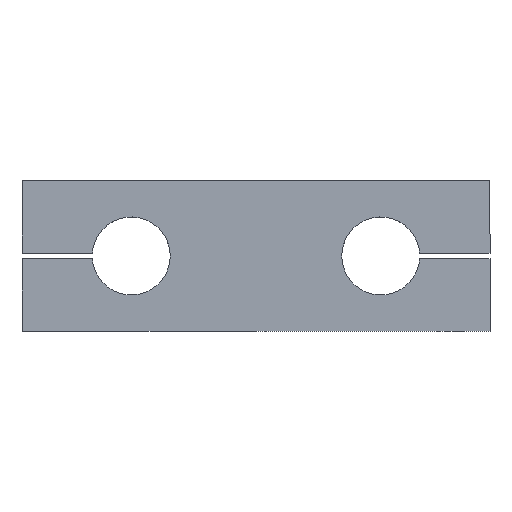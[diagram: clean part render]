
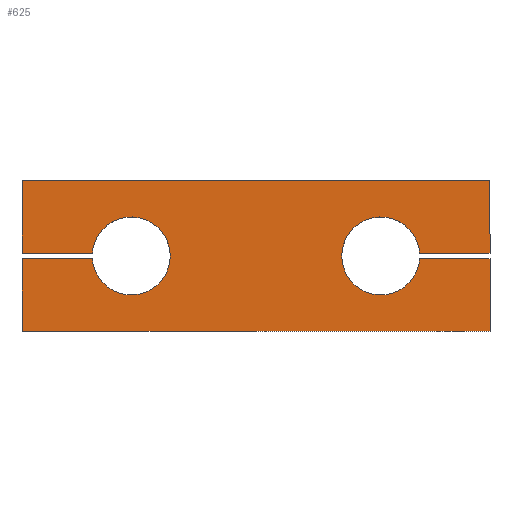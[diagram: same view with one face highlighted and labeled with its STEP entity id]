
A CAD part, top view. The second image highlights one B-rep face of the part: STEP entity #625.
In plain terms, the highlighted planar face has unit normal (0, 0, 1).
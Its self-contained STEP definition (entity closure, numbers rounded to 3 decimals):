
#10 = DIRECTION ( 'NONE',  ( 1., 0., 0. ) ) ;
#28 = ORIENTED_EDGE ( 'NONE', *, *, #374, .F. ) ;
#42 = EDGE_CURVE ( 'NONE', #711, #845, #1039, .T. ) ;
#45 = EDGE_CURVE ( 'NONE', #368, #284, #950, .T. ) ;
#63 = ORIENTED_EDGE ( 'NONE', *, *, #434, .F. ) ;
#88 = CARTESIAN_POINT ( 'NONE',  ( -62.961, -1.075, 12.5 ) ) ;
#93 = CARTESIAN_POINT ( 'NONE',  ( 0., 0., 12.5 ) ) ;
#105 = PLANE ( 'NONE',  #1223 ) ;
#110 = EDGE_CURVE ( 'NONE', #677, #499, #944, .T. ) ;
#168 = ORIENTED_EDGE ( 'NONE', *, *, #42, .T. ) ;
#180 = CARTESIAN_POINT ( 'NONE',  ( -90., 29., 12.5 ) ) ;
#202 = CARTESIAN_POINT ( 'NONE',  ( 90., -1.075, 12.5 ) ) ;
#205 = ORIENTED_EDGE ( 'NONE', *, *, #45, .T. ) ;
#218 = LINE ( 'NONE', #1004, #932 ) ;
#232 = DIRECTION ( 'NONE',  ( 0., 1., 0. ) ) ;
#247 = DIRECTION ( 'NONE',  ( 0., 0., 1. ) ) ;
#248 = EDGE_CURVE ( 'NONE', #1167, #251, #931, .T. ) ;
#251 = VERTEX_POINT ( 'NONE', #774 ) ;
#257 = CIRCLE ( 'NONE', #610, 15. ) ;
#259 = CARTESIAN_POINT ( 'NONE',  ( -90., 29., 12.5 ) ) ;
#264 = CARTESIAN_POINT ( 'NONE',  ( -90., 1.075, 12.5 ) ) ;
#273 = VECTOR ( 'NONE', #689, 1000. ) ;
#282 = CARTESIAN_POINT ( 'NONE',  ( -48., 0., 12.5 ) ) ;
#284 = VERTEX_POINT ( 'NONE', #673 ) ;
#286 = CARTESIAN_POINT ( 'NONE',  ( -90., -29., 12.5 ) ) ;
#314 = VECTOR ( 'NONE', #530, 1000. ) ;
#341 = DIRECTION ( 'NONE',  ( 1., 0., 0. ) ) ;
#344 = LINE ( 'NONE', #259, #496 ) ;
#356 = CIRCLE ( 'NONE', #1109, 15. ) ;
#368 = VERTEX_POINT ( 'NONE', #759 ) ;
#370 = EDGE_CURVE ( 'NONE', #642, #284, #1175, .T. ) ;
#374 = EDGE_CURVE ( 'NONE', #391, #845, #892, .T. ) ;
#391 = VERTEX_POINT ( 'NONE', #990 ) ;
#398 = VERTEX_POINT ( 'NONE', #286 ) ;
#434 = EDGE_CURVE ( 'NONE', #251, #642, #257, .T. ) ;
#442 = CARTESIAN_POINT ( 'NONE',  ( 47., 1.075, 12.5 ) ) ;
#452 = CARTESIAN_POINT ( 'NONE',  ( 90., 1.075, 12.5 ) ) ;
#459 = DIRECTION ( 'NONE',  ( 1., 0., 0. ) ) ;
#484 = CARTESIAN_POINT ( 'NONE',  ( 90., 29., 12.5 ) ) ;
#496 = VECTOR ( 'NONE', #1166, 1000. ) ;
#498 = DIRECTION ( 'NONE',  ( 0., 0., 1. ) ) ;
#499 = VERTEX_POINT ( 'NONE', #1211 ) ;
#513 = CARTESIAN_POINT ( 'NONE',  ( -90., -1.075, 12.5 ) ) ;
#520 = DIRECTION ( 'NONE',  ( 1., 0., 0. ) ) ;
#521 = VECTOR ( 'NONE', #10, 1000. ) ;
#526 = ORIENTED_EDGE ( 'NONE', *, *, #674, .T. ) ;
#530 = DIRECTION ( 'NONE',  ( -1., 0., 0. ) ) ;
#539 = VERTEX_POINT ( 'NONE', #1133 ) ;
#558 = CARTESIAN_POINT ( 'NONE',  ( 48., 0., 12.5 ) ) ;
#575 = DIRECTION ( 'NONE',  ( 0., 0., 1. ) ) ;
#578 = EDGE_CURVE ( 'NONE', #398, #711, #218, .T. ) ;
#586 = LINE ( 'NONE', #484, #273 ) ;
#598 = EDGE_CURVE ( 'NONE', #1178, #1167, #1244, .T. ) ;
#610 = AXIS2_PLACEMENT_3D ( 'NONE', #282, #575, #687 ) ;
#625 = ADVANCED_FACE ( 'NONE', ( #807 ), #105, .T. ) ;
#642 = VERTEX_POINT ( 'NONE', #1038 ) ;
#652 = DIRECTION ( 'NONE',  ( -1., 0., 0. ) ) ;
#663 = CARTESIAN_POINT ( 'NONE',  ( 90., -29., 12.5 ) ) ;
#673 = CARTESIAN_POINT ( 'NONE',  ( -90., 1.075, 12.5 ) ) ;
#674 = EDGE_CURVE ( 'NONE', #1178, #398, #344, .T. ) ;
#677 = VERTEX_POINT ( 'NONE', #452 ) ;
#684 = ORIENTED_EDGE ( 'NONE', *, *, #248, .F. ) ;
#687 = DIRECTION ( 'NONE',  ( 1., 0., 0. ) ) ;
#689 = DIRECTION ( 'NONE',  ( 0., 1., 0. ) ) ;
#701 = ORIENTED_EDGE ( 'NONE', *, *, #1114, .F. ) ;
#711 = VERTEX_POINT ( 'NONE', #663 ) ;
#742 = DIRECTION ( 'NONE',  ( 0., -1., 0. ) ) ;
#759 = CARTESIAN_POINT ( 'NONE',  ( -90., 29., 12.5 ) ) ;
#772 = VECTOR ( 'NONE', #1302, 1000. ) ;
#774 = CARTESIAN_POINT ( 'NONE',  ( -33., 0., 12.5 ) ) ;
#791 = CARTESIAN_POINT ( 'NONE',  ( -90., -1.075, 12.5 ) ) ;
#802 = LINE ( 'NONE', #180, #1012 ) ;
#807 = FACE_OUTER_BOUND ( 'NONE', #853, .T. ) ;
#842 = CARTESIAN_POINT ( 'NONE',  ( -90., 29., 12.5 ) ) ;
#845 = VERTEX_POINT ( 'NONE', #202 ) ;
#853 = EDGE_LOOP ( 'NONE', ( #897, #63, #684, #1241, #526, #1157, #168, #28, #701, #1075, #942, #885, #205 ) ) ;
#875 = EDGE_CURVE ( 'NONE', #677, #539, #586, .T. ) ;
#884 = VECTOR ( 'NONE', #742, 1000. ) ;
#885 = ORIENTED_EDGE ( 'NONE', *, *, #1287, .T. ) ;
#892 = LINE ( 'NONE', #997, #772 ) ;
#897 = ORIENTED_EDGE ( 'NONE', *, *, #370, .F. ) ;
#931 = CIRCLE ( 'NONE', #1072, 15. ) ;
#932 = VECTOR ( 'NONE', #520, 1000. ) ;
#938 = CARTESIAN_POINT ( 'NONE',  ( 90., 29., 12.5 ) ) ;
#942 = ORIENTED_EDGE ( 'NONE', *, *, #875, .T. ) ;
#944 = LINE ( 'NONE', #442, #314 ) ;
#950 = LINE ( 'NONE', #842, #884 ) ;
#964 = CARTESIAN_POINT ( 'NONE',  ( -48., 0., 12.5 ) ) ;
#969 = DIRECTION ( 'NONE',  ( 0., 0., 1. ) ) ;
#990 = CARTESIAN_POINT ( 'NONE',  ( 62.961, -1.075, 12.5 ) ) ;
#995 = DIRECTION ( 'NONE',  ( -1., 0., 0. ) ) ;
#997 = CARTESIAN_POINT ( 'NONE',  ( 47., -1.075, 12.5 ) ) ;
#1004 = CARTESIAN_POINT ( 'NONE',  ( -90., -29., 12.5 ) ) ;
#1012 = VECTOR ( 'NONE', #995, 1000. ) ;
#1038 = CARTESIAN_POINT ( 'NONE',  ( -62.961, 1.075, 12.5 ) ) ;
#1039 = LINE ( 'NONE', #938, #1112 ) ;
#1072 = AXIS2_PLACEMENT_3D ( 'NONE', #964, #247, #341 ) ;
#1075 = ORIENTED_EDGE ( 'NONE', *, *, #110, .F. ) ;
#1109 = AXIS2_PLACEMENT_3D ( 'NONE', #558, #969, #459 ) ;
#1112 = VECTOR ( 'NONE', #232, 1000. ) ;
#1114 = EDGE_CURVE ( 'NONE', #499, #391, #356, .T. ) ;
#1133 = CARTESIAN_POINT ( 'NONE',  ( 90., 29., 12.5 ) ) ;
#1150 = DIRECTION ( 'NONE',  ( 1., 0., 0. ) ) ;
#1157 = ORIENTED_EDGE ( 'NONE', *, *, #578, .T. ) ;
#1166 = DIRECTION ( 'NONE',  ( 0., -1., 0. ) ) ;
#1167 = VERTEX_POINT ( 'NONE', #88 ) ;
#1175 = LINE ( 'NONE', #264, #1249 ) ;
#1178 = VERTEX_POINT ( 'NONE', #791 ) ;
#1211 = CARTESIAN_POINT ( 'NONE',  ( 62.961, 1.075, 12.5 ) ) ;
#1223 = AXIS2_PLACEMENT_3D ( 'NONE', #93, #498, #1150 ) ;
#1241 = ORIENTED_EDGE ( 'NONE', *, *, #598, .F. ) ;
#1244 = LINE ( 'NONE', #513, #521 ) ;
#1249 = VECTOR ( 'NONE', #652, 1000. ) ;
#1287 = EDGE_CURVE ( 'NONE', #539, #368, #802, .T. ) ;
#1302 = DIRECTION ( 'NONE',  ( 1., 0., 0. ) ) ;
